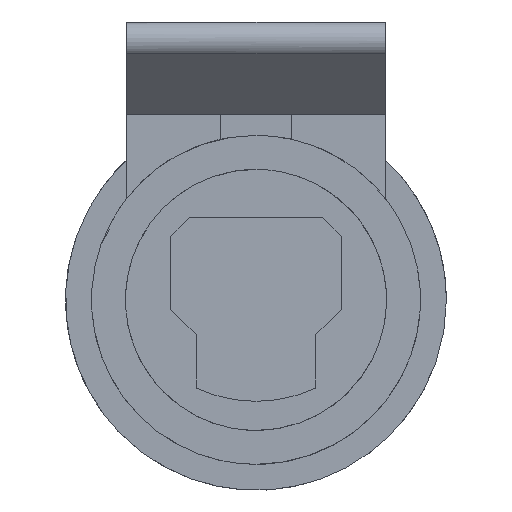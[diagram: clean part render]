
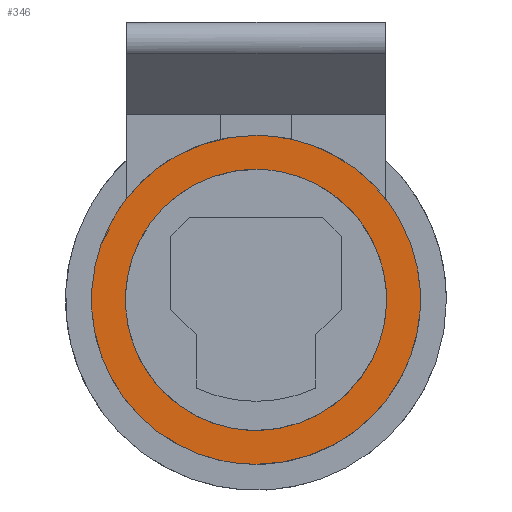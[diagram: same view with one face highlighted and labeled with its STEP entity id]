
A CAD part, left-side view. The second image highlights one B-rep face of the part: STEP entity #346.
In plain terms, the highlighted free-form (B-spline) face has degree [1, 1] with [2, 2] control points.
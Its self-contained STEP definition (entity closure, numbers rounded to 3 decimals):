
#130=EDGE_CURVE('',#131,#133,#135,.F.);
#131=VERTEX_POINT('',#132);
#132=CARTESIAN_POINT('',(-218.897,0.0,7.842));
#133=VERTEX_POINT('',#134);
#134=CARTESIAN_POINT('',(-218.897,0.0,-7.842));
#135=(BOUNDED_CURVE()B_SPLINE_CURVE(2,(#136,#137,#138,#139,#140),.UNSPECIFIED.,.F.,.U.)B_SPLINE_CURVE_WITH_KNOTS((3,2,3),(0.0,1.571,3.142),.UNSPECIFIED.)CURVE()GEOMETRIC_REPRESENTATION_ITEM()RATIONAL_B_SPLINE_CURVE((1.0,0.707,1.0,0.707,1.0))REPRESENTATION_ITEM(''));
#136=CARTESIAN_POINT('',(-218.897,0.0,-7.842));
#137=CARTESIAN_POINT('',(-218.897,-7.842,-7.842));
#138=CARTESIAN_POINT('',(-218.897,-7.842,0.));
#139=CARTESIAN_POINT('',(-218.897,-7.842,7.842));
#140=CARTESIAN_POINT('',(-218.897,0.0,7.842));
#142=EDGE_CURVE('',#133,#131,#143,.F.);
#143=(BOUNDED_CURVE()B_SPLINE_CURVE(2,(#144,#145,#146,#147,#148),.UNSPECIFIED.,.F.,.U.)B_SPLINE_CURVE_WITH_KNOTS((3,2,3),(3.142,4.712,6.283),.PIECEWISE_BEZIER_KNOTS.)CURVE()GEOMETRIC_REPRESENTATION_ITEM()RATIONAL_B_SPLINE_CURVE((1.0,0.707,1.0,0.707,1.0))REPRESENTATION_ITEM(''));
#144=CARTESIAN_POINT('',(-218.897,0.0,7.842));
#145=CARTESIAN_POINT('',(-218.897,7.842,7.842));
#146=CARTESIAN_POINT('',(-218.897,7.842,0.));
#147=CARTESIAN_POINT('',(-218.897,7.842,-7.842));
#148=CARTESIAN_POINT('',(-218.897,0.0,-7.842));
#346=ADVANCED_FACE('',(#347,#351),#373,.T.);
#347=FACE_BOUND('',#348,.T.);
#348=EDGE_LOOP('',(#349,#350));
#349=ORIENTED_EDGE('',*,*,#130,.F.);
#350=ORIENTED_EDGE('',*,*,#142,.F.);
#351=FACE_BOUND('',#352,.T.);
#352=EDGE_LOOP('',(#353,#367));
#353=ORIENTED_EDGE('',*,*,#354,.T.);
#354=EDGE_CURVE('',#355,#357,#359,.T.);
#355=VERTEX_POINT('',#356);
#356=CARTESIAN_POINT('',(-218.897,-6.223,0.));
#357=VERTEX_POINT('',#358);
#358=CARTESIAN_POINT('',(-218.897,0.0,6.223));
#359=(BOUNDED_CURVE()B_SPLINE_CURVE(2,(#360,#361,#362,#363,#364,#365,#366),.UNSPECIFIED.,.F.,.U.)B_SPLINE_CURVE_WITH_KNOTS((3,2,2,3),(0.0,1.571,3.142,4.712),.UNSPECIFIED.)CURVE()GEOMETRIC_REPRESENTATION_ITEM()RATIONAL_B_SPLINE_CURVE((1.0,0.707,1.0,0.707,1.0,0.707,1.0))REPRESENTATION_ITEM(''));
#360=CARTESIAN_POINT('',(-218.897,-6.223,0.));
#361=CARTESIAN_POINT('',(-218.897,-6.223,-6.223));
#362=CARTESIAN_POINT('',(-218.897,0.0,-6.223));
#363=CARTESIAN_POINT('',(-218.897,6.223,-6.223));
#364=CARTESIAN_POINT('',(-218.897,6.223,0.));
#365=CARTESIAN_POINT('',(-218.897,6.223,6.223));
#366=CARTESIAN_POINT('',(-218.897,0.0,6.223));
#367=ORIENTED_EDGE('',*,*,#368,.T.);
#368=EDGE_CURVE('',#357,#355,#369,.T.);
#369=(BOUNDED_CURVE()B_SPLINE_CURVE(2,(#370,#371,#372),.UNSPECIFIED.,.F.,.U.)B_SPLINE_CURVE_WITH_KNOTS((3,3),(4.712,6.283),.PIECEWISE_BEZIER_KNOTS.)CURVE()GEOMETRIC_REPRESENTATION_ITEM()RATIONAL_B_SPLINE_CURVE((1.0,0.707,1.0))REPRESENTATION_ITEM(''));
#370=CARTESIAN_POINT('',(-218.897,0.0,6.223));
#371=CARTESIAN_POINT('',(-218.897,-6.223,6.223));
#372=CARTESIAN_POINT('',(-218.897,-6.223,0.));
#373=B_SPLINE_SURFACE_WITH_KNOTS('',1,1,((#374,#375),(#376,#377)),.UNSPECIFIED.,.F.,.F.,.U.,(2,2),(2,2),(-0.309,0.309),(-0.309,0.309),.PIECEWISE_BEZIER_KNOTS.);
#374=CARTESIAN_POINT('',(-218.897,7.842,7.842));
#375=CARTESIAN_POINT('',(-218.897,-7.842,7.842));
#376=CARTESIAN_POINT('',(-218.897,7.842,-7.842));
#377=CARTESIAN_POINT('',(-218.897,-7.842,-7.842));
